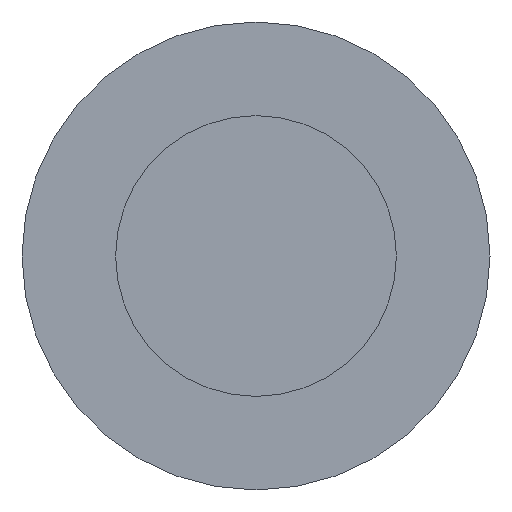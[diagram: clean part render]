
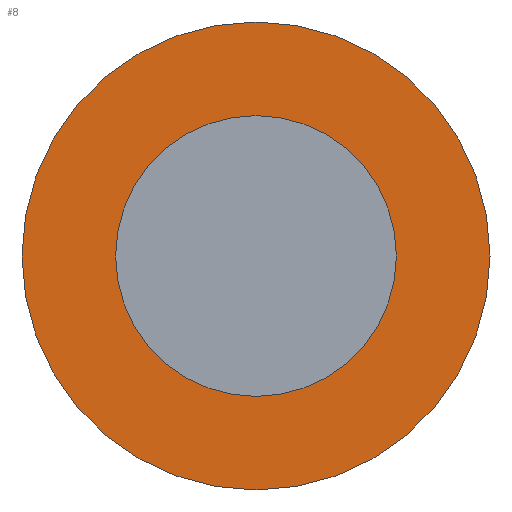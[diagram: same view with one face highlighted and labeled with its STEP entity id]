
A CAD part, front view. The second image highlights one B-rep face of the part: STEP entity #8.
In plain terms, the highlighted planar face has unit normal (0, -1, 0).
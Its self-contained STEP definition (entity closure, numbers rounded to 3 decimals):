
#8 = ADVANCED_FACE ( 'NONE', ( #243, #241 ), #155, .F. ) ;
#12 = AXIS2_PLACEMENT_3D ( 'NONE', #207, #175, #174 ) ;
#14 = AXIS2_PLACEMENT_3D ( 'NONE', #194, #190, #189 ) ;
#18 = EDGE_CURVE ( 'NONE', #121, #120, #82, .T. ) ;
#25 = EDGE_CURVE ( 'NONE', #219, #100, #70, .T. ) ;
#31 = AXIS2_PLACEMENT_3D ( 'NONE', #169, #168, #166 ) ;
#35 = EDGE_CURVE ( 'NONE', #100, #219, #63, .T. ) ;
#42 = AXIS2_PLACEMENT_3D ( 'NONE', #198, #196, #195 ) ;
#43 = EDGE_CURVE ( 'NONE', #120, #121, #72, .T. ) ;
#47 = AXIS2_PLACEMENT_3D ( 'NONE', #162, #151, #149 ) ;
#63 = CIRCLE ( 'NONE', #12, 5. ) ;
#70 = CIRCLE ( 'NONE', #14, 5. ) ;
#72 = CIRCLE ( 'NONE', #31, 3. ) ;
#82 = CIRCLE ( 'NONE', #42, 3. ) ;
#100 = VERTEX_POINT ( 'NONE', #146 ) ;
#120 = VERTEX_POINT ( 'NONE', #150 ) ;
#121 = VERTEX_POINT ( 'NONE', #138 ) ;
#135 = CARTESIAN_POINT ( 'NONE',  ( -5., 0.6, 0. ) ) ;
#138 = CARTESIAN_POINT ( 'NONE',  ( -3., 0.6, 0. ) ) ;
#146 = CARTESIAN_POINT ( 'NONE',  ( 5., 0.6, 0. ) ) ;
#149 = DIRECTION ( 'NONE',  ( -1., 0., 0. ) ) ;
#150 = CARTESIAN_POINT ( 'NONE',  ( 3., 0.6, 0. ) ) ;
#151 = DIRECTION ( 'NONE',  ( 0., 1., 0. ) ) ;
#155 = PLANE ( 'NONE',  #47 ) ;
#162 = CARTESIAN_POINT ( 'NONE',  ( -5., 0.6, 0. ) ) ;
#166 = DIRECTION ( 'NONE',  ( 1., 0., 0. ) ) ;
#168 = DIRECTION ( 'NONE',  ( 0., -1., 0. ) ) ;
#169 = CARTESIAN_POINT ( 'NONE',  ( 0., 0.6, 0. ) ) ;
#174 = DIRECTION ( 'NONE',  ( 1., 0., 0. ) ) ;
#175 = DIRECTION ( 'NONE',  ( 0., -1., 0. ) ) ;
#189 = DIRECTION ( 'NONE',  ( 1., 0., 0. ) ) ;
#190 = DIRECTION ( 'NONE',  ( 0., -1., 0. ) ) ;
#194 = CARTESIAN_POINT ( 'NONE',  ( 0., 0.6, 0. ) ) ;
#195 = DIRECTION ( 'NONE',  ( 1., 0., 0. ) ) ;
#196 = DIRECTION ( 'NONE',  ( 0., -1., 0. ) ) ;
#198 = CARTESIAN_POINT ( 'NONE',  ( 0., 0.6, 0. ) ) ;
#207 = CARTESIAN_POINT ( 'NONE',  ( 0., 0.6, 0. ) ) ;
#219 = VERTEX_POINT ( 'NONE', #135 ) ;
#241 = FACE_OUTER_BOUND ( 'NONE', #289, .T. ) ;
#243 = FACE_BOUND ( 'NONE', #255, .T. ) ;
#255 = EDGE_LOOP ( 'NONE', ( #271, #287 ) ) ;
#271 = ORIENTED_EDGE ( 'NONE', *, *, #43, .F. ) ;
#283 = ORIENTED_EDGE ( 'NONE', *, *, #25, .T. ) ;
#287 = ORIENTED_EDGE ( 'NONE', *, *, #18, .F. ) ;
#288 = ORIENTED_EDGE ( 'NONE', *, *, #35, .T. ) ;
#289 = EDGE_LOOP ( 'NONE', ( #288, #283 ) ) ;
